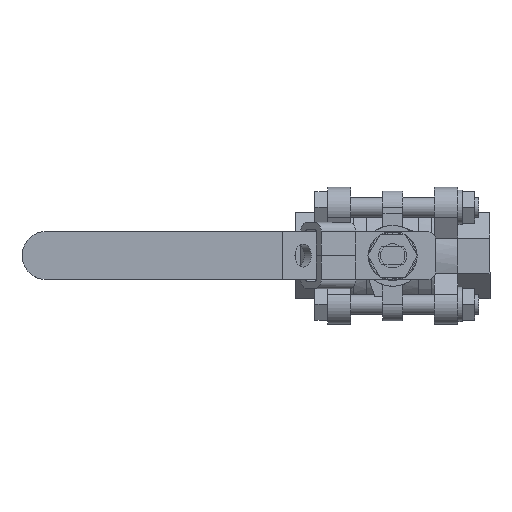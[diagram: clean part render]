
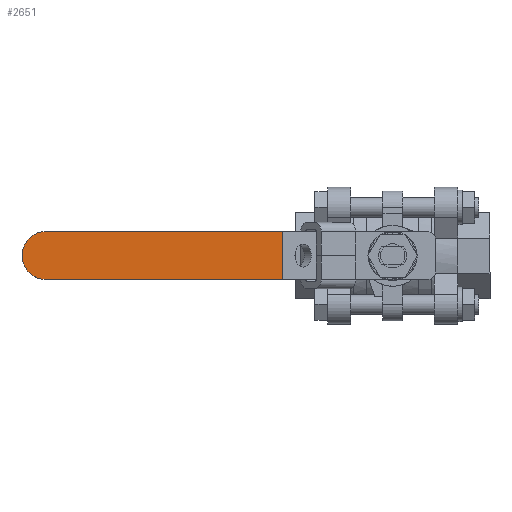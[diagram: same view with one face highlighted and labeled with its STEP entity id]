
A CAD part, top view. The second image highlights one B-rep face of the part: STEP entity #2651.
In plain terms, the highlighted planar face has unit normal (0, 0, 1).
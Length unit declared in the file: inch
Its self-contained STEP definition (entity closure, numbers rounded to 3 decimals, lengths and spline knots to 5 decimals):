
#2584=CARTESIAN_POINT('',(-3.85252,0.37383,3.35482));
#2585=VERTEX_POINT('',#2584);
#2586=CARTESIAN_POINT('',(-3.85252,-0.37117,3.35482));
#2587=VERTEX_POINT('',#2586);
#2588=CARTESIAN_POINT('',(-3.85252,0.00133,3.35482));
#2589=DIRECTION('',(0.0,0.0,1.0));
#2590=DIRECTION('',(-1.0,0.0,0.0));
#2591=AXIS2_PLACEMENT_3D('',#2588,#2589,#2590);
#2592=CIRCLE('',#2591,0.3725);
#2593=EDGE_CURVE('',#2585,#2587,#2592,.T.);
#2621=CARTESIAN_POINT('',(-0.19764,-0.37117,3.35482));
#2622=DIRECTION('',(0.0,0.0,1.0));
#2623=DIRECTION('',(1.0,0.0,0.0));
#2624=AXIS2_PLACEMENT_3D('',#2621,#2622,#2623);
#2625=PLANE('',#2624);
#2626=ORIENTED_EDGE('',*,*,#2593,.T.);
#2627=CARTESIAN_POINT('',(-0.19764,-0.37117,3.35482));
#2628=VERTEX_POINT('',#2627);
#2629=CARTESIAN_POINT('',(-3.85252,-0.37117,3.35482));
#2630=DIRECTION('',(1.0,0.0,0.0));
#2631=VECTOR('',#2630,3.65487);
#2632=LINE('',#2629,#2631);
#2633=EDGE_CURVE('',#2587,#2628,#2632,.T.);
#2634=ORIENTED_EDGE('',*,*,#2633,.T.);
#2635=CARTESIAN_POINT('',(-0.19764,0.37383,3.35482));
#2636=VERTEX_POINT('',#2635);
#2637=CARTESIAN_POINT('',(-0.19764,-0.37117,3.35482));
#2638=DIRECTION('',(0.0,1.0,0.0));
#2639=VECTOR('',#2638,0.745);
#2640=LINE('',#2637,#2639);
#2641=EDGE_CURVE('',#2628,#2636,#2640,.T.);
#2642=ORIENTED_EDGE('',*,*,#2641,.T.);
#2643=CARTESIAN_POINT('',(-0.19764,0.37383,3.35482));
#2644=DIRECTION('',(-1.0,0.0,0.0));
#2645=VECTOR('',#2644,3.65487);
#2646=LINE('',#2643,#2645);
#2647=EDGE_CURVE('',#2636,#2585,#2646,.T.);
#2648=ORIENTED_EDGE('',*,*,#2647,.T.);
#2649=EDGE_LOOP('',(#2626,#2634,#2642,#2648));
#2650=FACE_OUTER_BOUND('',#2649,.T.);
#2651=ADVANCED_FACE('',(#2650),#2625,.T.);
